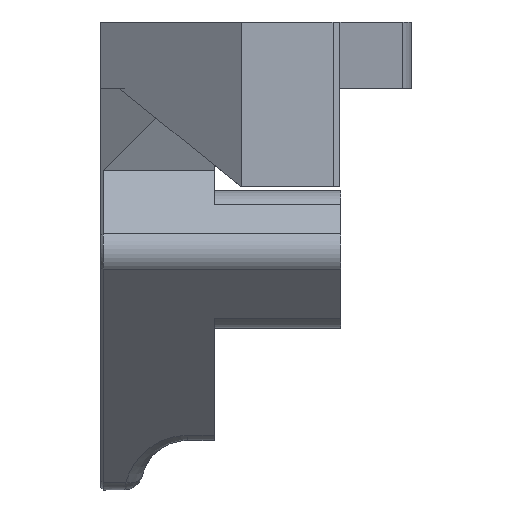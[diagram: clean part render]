
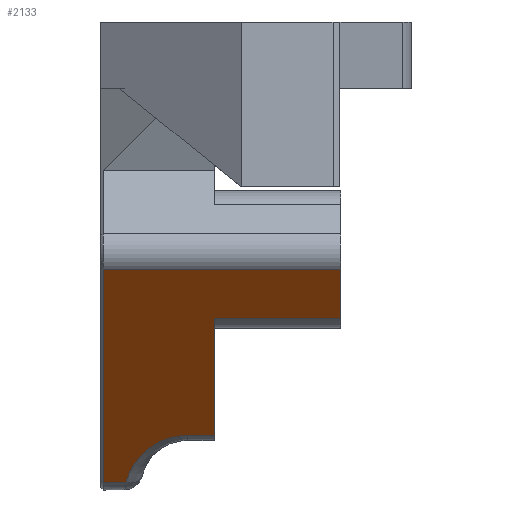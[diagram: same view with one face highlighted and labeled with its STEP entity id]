
A CAD part, left-side view. The second image highlights one B-rep face of the part: STEP entity #2133.
In plain terms, the highlighted planar face has unit normal (-0.707, 0, -0.707).
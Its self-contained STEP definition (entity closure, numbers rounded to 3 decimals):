
#26=ELLIPSE('',#2260,7.778,5.5);
#58=PLANE('',#2278);
#161=FACE_OUTER_BOUND('',#299,.T.);
#299=EDGE_LOOP('',(#1583,#1584,#1585,#1586,#1587,#1588,#1589,#1590));
#593=LINE('',#4216,#767);
#601=LINE('',#4389,#775);
#602=LINE('',#4391,#776);
#603=LINE('',#4393,#777);
#604=LINE('',#4395,#778);
#605=LINE('',#4397,#779);
#606=LINE('',#4398,#780);
#767=VECTOR('',#2493,10.);
#775=VECTOR('',#2545,10.);
#776=VECTOR('',#2546,10.);
#777=VECTOR('',#2547,10.);
#778=VECTOR('',#2548,10.);
#779=VECTOR('',#2549,10.);
#780=VECTOR('',#2550,2.133);
#968=VERTEX_POINT('',#4213);
#969=VERTEX_POINT('',#4215);
#971=VERTEX_POINT('',#4262);
#987=VERTEX_POINT('',#4388);
#988=VERTEX_POINT('',#4390);
#989=VERTEX_POINT('',#4392);
#990=VERTEX_POINT('',#4394);
#991=VERTEX_POINT('',#4396);
#1190=EDGE_CURVE('',#968,#969,#593,.T.);
#1195=EDGE_CURVE('',#969,#971,#26,.T.);
#1217=EDGE_CURVE('',#968,#987,#601,.T.);
#1218=EDGE_CURVE('',#988,#987,#602,.T.);
#1219=EDGE_CURVE('',#989,#988,#603,.T.);
#1220=EDGE_CURVE('',#990,#989,#604,.T.);
#1221=EDGE_CURVE('',#991,#990,#605,.T.);
#1222=EDGE_CURVE('',#971,#991,#606,.T.);
#1583=ORIENTED_EDGE('',*,*,#1195,.F.);
#1584=ORIENTED_EDGE('',*,*,#1190,.F.);
#1585=ORIENTED_EDGE('',*,*,#1217,.T.);
#1586=ORIENTED_EDGE('',*,*,#1218,.F.);
#1587=ORIENTED_EDGE('',*,*,#1219,.F.);
#1588=ORIENTED_EDGE('',*,*,#1220,.F.);
#1589=ORIENTED_EDGE('',*,*,#1221,.F.);
#1590=ORIENTED_EDGE('',*,*,#1222,.F.);
#2133=ADVANCED_FACE('',(#161),#58,.T.);
#2260=AXIS2_PLACEMENT_3D('',#4266,#2501,#2502);
#2278=AXIS2_PLACEMENT_3D('',#4387,#2543,#2544);
#2493=DIRECTION('',(0.,1.,0.));
#2501=DIRECTION('center_axis',(-0.707,0.,
-0.707));
#2502=DIRECTION('ref_axis',(-0.707,0.,0.707));
#2543=DIRECTION('center_axis',(-0.707,0.,
-0.707));
#2544=DIRECTION('ref_axis',(0.707,0.,-0.707));
#2545=DIRECTION('',(-0.707,0.,0.707));
#2546=DIRECTION('',(0.,1.,0.));
#2547=DIRECTION('',(0.707,0.,-0.707));
#2548=DIRECTION('',(0.,-1.,0.));
#2549=DIRECTION('',(-0.707,0.,0.707));
#2550=DIRECTION('',(0.,1.,0.));
#4213=CARTESIAN_POINT('',(18.839,42.458,2.172));
#4215=CARTESIAN_POINT('',(18.839,44.75,2.172));
#4216=CARTESIAN_POINT('',(18.839,48.454,2.172));
#4262=CARTESIAN_POINT('',(22.898,50.058,-1.887));
#4266=CARTESIAN_POINT('Origin',(24.339,44.75,-3.328));
#4387=CARTESIAN_POINT('Origin',(4.55,51.908,16.462));
#4388=CARTESIAN_POINT('',(8.775,42.458,12.237));
#4389=CARTESIAN_POINT('',(6.651,42.458,14.36));
#4390=CARTESIAN_POINT('',(8.775,31.62,12.237));
#4391=CARTESIAN_POINT('',(8.775,46.636,12.237));
#4392=CARTESIAN_POINT('',(4.55,31.62,16.462));
#4393=CARTESIAN_POINT('',(10.867,31.62,10.145));
#4394=CARTESIAN_POINT('',(4.55,52.008,16.462));
#4395=CARTESIAN_POINT('',(4.55,40.858,16.462));
#4396=CARTESIAN_POINT('',(22.898,52.008,-1.887));
#4397=CARTESIAN_POINT('',(10.867,52.008,10.145));
#4398=CARTESIAN_POINT('',(22.898,50.261,-1.887));
